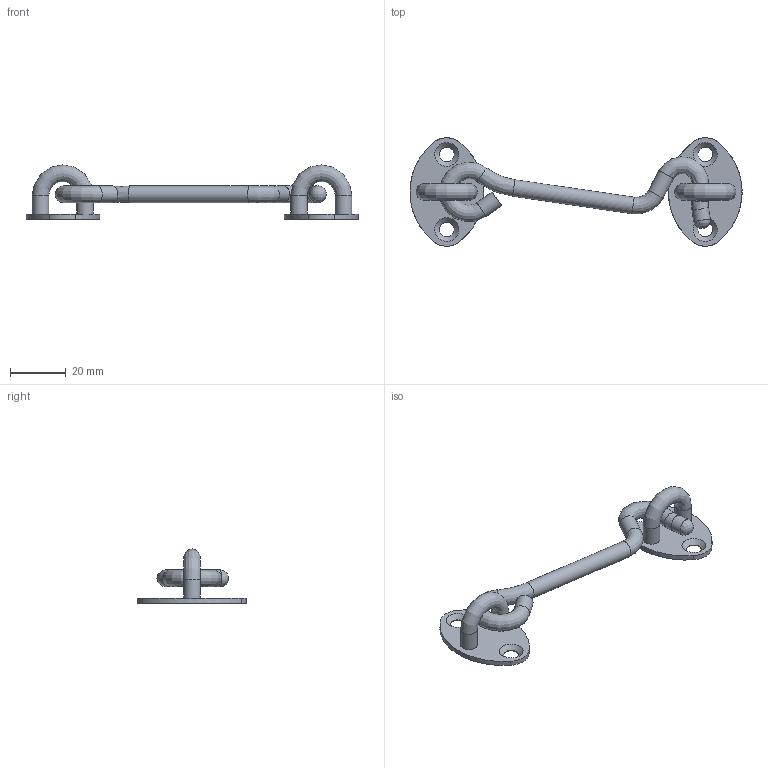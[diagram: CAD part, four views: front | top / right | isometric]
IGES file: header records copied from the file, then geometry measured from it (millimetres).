
Global section: file name: DR_GS5-8; native system: Autodesk Inventor 2015; preprocessor: unknown; author: user; date: 20171205.110513; units: millimetre
Bounding box: 119.44 x 38.99 x 19.5 mm (x, y, z)
Volume: 8961.5 mm3; surface area: 7553.2 mm2
Topology: 3 solids, 3 shells, 38 faces, 97 edges, 64 vertices
Faces by surface type: bspline 38
